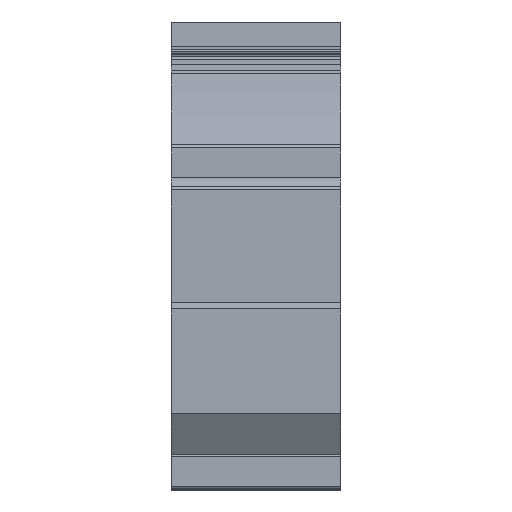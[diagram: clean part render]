
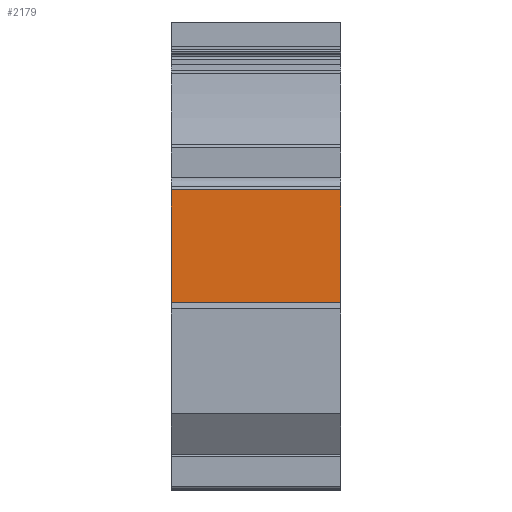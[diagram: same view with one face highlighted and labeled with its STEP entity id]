
A CAD part, top view. The second image highlights one B-rep face of the part: STEP entity #2179.
In plain terms, the highlighted planar face has unit normal (0, 0, 1).
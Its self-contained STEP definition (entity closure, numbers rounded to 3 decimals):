
#7 = LINE ( 'NONE', #304, #1835 ) ;
#28 = DIRECTION ( 'NONE',  ( 1., 0., 0. ) ) ;
#111 = VECTOR ( 'NONE', #419, 1000. ) ;
#212 = ORIENTED_EDGE ( 'NONE', *, *, #2609, .F. ) ;
#279 = VECTOR ( 'NONE', #3200, 1000. ) ;
#304 = CARTESIAN_POINT ( 'NONE',  ( 13.5, 0., 46. ) ) ;
#419 = DIRECTION ( 'NONE',  ( -1., 0., 0. ) ) ;
#439 = FACE_OUTER_BOUND ( 'NONE', #3345, .T. ) ;
#576 = VERTEX_POINT ( 'NONE', #1404 ) ;
#635 = VERTEX_POINT ( 'NONE', #2978 ) ;
#706 = CARTESIAN_POINT ( 'NONE',  ( -13.5, -18.507, 46. ) ) ;
#868 = DIRECTION ( 'NONE',  ( 0., 1., 0. ) ) ;
#897 = ORIENTED_EDGE ( 'NONE', *, *, #1100, .T. ) ;
#950 = CARTESIAN_POINT ( 'NONE',  ( -13.5, 0., 46. ) ) ;
#1045 = EDGE_CURVE ( 'NONE', #635, #1455, #3146, .T. ) ;
#1100 = EDGE_CURVE ( 'NONE', #1838, #576, #1692, .T. ) ;
#1106 = CARTESIAN_POINT ( 'NONE',  ( 13.5, 0., 46. ) ) ;
#1224 = ORIENTED_EDGE ( 'NONE', *, *, #1697, .T. ) ;
#1404 = CARTESIAN_POINT ( 'NONE',  ( -13.5, -0.5, 46. ) ) ;
#1455 = VERTEX_POINT ( 'NONE', #706 ) ;
#1457 = CARTESIAN_POINT ( 'NONE',  ( 13.5, -0.5, 46. ) ) ;
#1692 = LINE ( 'NONE', #1457, #111 ) ;
#1697 = EDGE_CURVE ( 'NONE', #635, #1838, #7, .T. ) ;
#1835 = VECTOR ( 'NONE', #868, 1000. ) ;
#1838 = VERTEX_POINT ( 'NONE', #3220 ) ;
#1867 = PLANE ( 'NONE',  #3113 ) ;
#1973 = DIRECTION ( 'NONE',  ( 0., 1., 0. ) ) ;
#2077 = ORIENTED_EDGE ( 'NONE', *, *, #1045, .F. ) ;
#2179 = ADVANCED_FACE ( 'NONE', ( #439 ), #1867, .T. ) ;
#2190 = CARTESIAN_POINT ( 'NONE',  ( 13.5, -18.507, 46. ) ) ;
#2473 = VECTOR ( 'NONE', #1973, 1000. ) ;
#2609 = EDGE_CURVE ( 'NONE', #1455, #576, #2754, .T. ) ;
#2754 = LINE ( 'NONE', #950, #2473 ) ;
#2904 = DIRECTION ( 'NONE',  ( 0., 0., 1. ) ) ;
#2978 = CARTESIAN_POINT ( 'NONE',  ( 13.5, -18.507, 46. ) ) ;
#3113 = AXIS2_PLACEMENT_3D ( 'NONE', #1106, #2904, #28 ) ;
#3146 = LINE ( 'NONE', #2190, #279 ) ;
#3200 = DIRECTION ( 'NONE',  ( -1., 0., 0. ) ) ;
#3220 = CARTESIAN_POINT ( 'NONE',  ( 13.5, -0.5, 46. ) ) ;
#3345 = EDGE_LOOP ( 'NONE', ( #212, #2077, #1224, #897 ) ) ;
